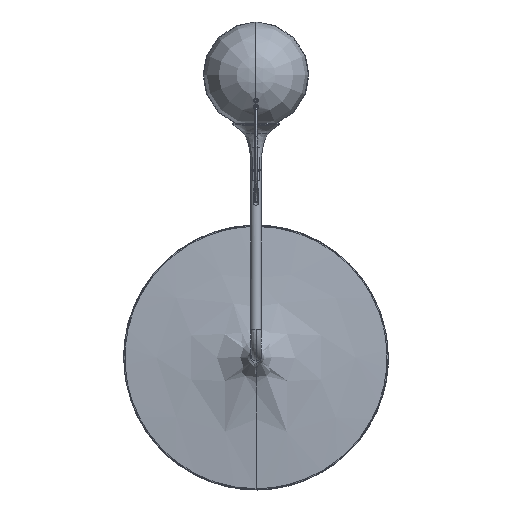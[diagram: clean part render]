
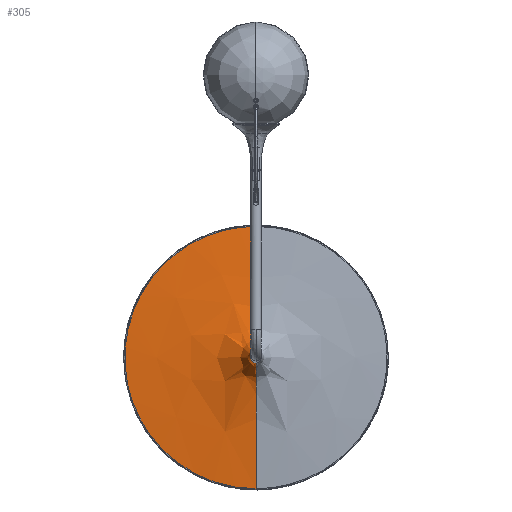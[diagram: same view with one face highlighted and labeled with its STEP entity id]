
A CAD part, top view. The second image highlights one B-rep face of the part: STEP entity #305.
In plain terms, the highlighted free-form (B-spline) face has degree [3, 5] with [4, 6] control points.
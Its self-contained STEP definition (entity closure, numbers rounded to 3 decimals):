
#305=ADVANCED_FACE('',(#413),#1905,.T.);
#413=FACE_OUTER_BOUND('',#521,.T.);
#521=EDGE_LOOP('',(#649,#650,#651,#652));
#649=ORIENTED_EDGE('',*,*,#1168,.T.);
#650=ORIENTED_EDGE('',*,*,#1174,.T.);
#651=ORIENTED_EDGE('',*,*,#1166,.T.);
#652=ORIENTED_EDGE('',*,*,#1175,.F.);
#1166=EDGE_CURVE('',#1708,#1709,#1608,.T.);
#1168=EDGE_CURVE('',#1710,#1707,#1609,.T.);
#1174=EDGE_CURVE('',#1707,#1708,#1436,.T.);
#1175=EDGE_CURVE('',#1710,#1709,#1615,.T.);
#1436=(
BOUNDED_CURVE()
B_SPLINE_CURVE(2,(#2556,#2557,#2558,#2559,#2560),.UNSPECIFIED.,.F.,.F.)
B_SPLINE_CURVE_WITH_KNOTS((3,2,3),(0.,7.854,15.708),
 .UNSPECIFIED.)
CURVE()
GEOMETRIC_REPRESENTATION_ITEM()
RATIONAL_B_SPLINE_CURVE((1.,0.707,1.,0.707,1.))
REPRESENTATION_ITEM('')
);
#1608=B_SPLINE_CURVE_WITH_KNOTS('',5,(#2499,#2500,#2501,#2502,#2503,#2504),
 .UNSPECIFIED.,.F.,.F.,(6,6),(-153.029,0.),.UNSPECIFIED.);
#1609=B_SPLINE_CURVE_WITH_KNOTS('',5,(#2510,#2511,#2512,#2513,#2514,#2515),
 .UNSPECIFIED.,.F.,.F.,(6,6),(-153.029,0.),.UNSPECIFIED.);
#1615=B_SPLINE_CURVE_WITH_KNOTS('',3,(#2561,#2562,#2563,#2564,#2565,#2566,
#2567,#2568,#2569,#2570,#2571,#2572,#2573),.UNSPECIFIED.,.F.,.F.,(4,1,1,
1,1,1,1,1,1,1,4),(-398.083,-369.648,-341.214,
-284.345,-227.476,-170.607,-113.738,
-85.303,-56.869,-28.434,0.),.UNSPECIFIED.);
#1707=VERTEX_POINT('',#2489);
#1708=VERTEX_POINT('',#2490);
#1709=VERTEX_POINT('',#2491);
#1710=VERTEX_POINT('',#2492);
#1905=(
BOUNDED_SURFACE()
B_SPLINE_SURFACE(3,5,((#2323,#2324,#2325,#2326,#2327,#2328),(#2329,#2330,
#2331,#2332,#2333,#2334),(#2335,#2336,#2337,#2338,#2339,#2340),(#2341,#2342,
#2343,#2344,#2345,#2346)),.UNSPECIFIED.,.F.,.F.,.F.)
B_SPLINE_SURFACE_WITH_KNOTS((4,4),(6,6),(0.,748.159),(0.,301.888),
 .UNSPECIFIED.)
GEOMETRIC_REPRESENTATION_ITEM()
RATIONAL_B_SPLINE_SURFACE(((1.,1.,1.,
1.,1.,1.),(0.333,
0.333,0.333,0.333,0.333,
0.333),(0.333,0.333,0.333,
0.333,0.333,0.333),(1.,
1.,1.,1.,1.,1.)))
REPRESENTATION_ITEM('')
SURFACE()
);
#2323=CARTESIAN_POINT('',(0.008,124.677,10.5));
#2324=CARTESIAN_POINT('',(0.006,94.758,12.723));
#2325=CARTESIAN_POINT('',(0.004,64.838,14.946));
#2326=CARTESIAN_POINT('',(0.002,34.919,17.17));
#2327=CARTESIAN_POINT('',(0.,5.,19.393));
#2328=CARTESIAN_POINT('',(0.,5.,53.5));
#2329=CARTESIAN_POINT('',(-249.378,124.693,10.5));
#2330=CARTESIAN_POINT('',(-189.534,94.77,12.723));
#2331=CARTESIAN_POINT('',(-129.69,64.847,14.946));
#2332=CARTESIAN_POINT('',(-69.845,34.924,17.17));
#2333=CARTESIAN_POINT('',(-10.001,5.001,19.393));
#2334=CARTESIAN_POINT('',(-10.001,5.001,53.5));
#2335=CARTESIAN_POINT('',(-249.378,-124.693,10.5));
#2336=CARTESIAN_POINT('',(-189.534,-94.77,12.723));
#2337=CARTESIAN_POINT('',(-129.69,-64.847,14.946));
#2338=CARTESIAN_POINT('',(-69.845,-34.924,17.17));
#2339=CARTESIAN_POINT('',(-10.001,-5.001,19.393));
#2340=CARTESIAN_POINT('',(-10.001,-5.001,53.5));
#2341=CARTESIAN_POINT('',(0.008,-124.677,10.5));
#2342=CARTESIAN_POINT('',(0.006,-94.758,12.723));
#2343=CARTESIAN_POINT('',(0.004,-64.838,14.946));
#2344=CARTESIAN_POINT('',(0.002,-34.919,17.17));
#2345=CARTESIAN_POINT('',(0.,-5.,19.393));
#2346=CARTESIAN_POINT('',(0.,-5.,53.5));
#2489=CARTESIAN_POINT('',(0.,-5.,53.5));
#2490=CARTESIAN_POINT('',(0.,5.,53.5));
#2491=CARTESIAN_POINT('',(0.,123.783,10.566));
#2492=CARTESIAN_POINT('',(0.,-123.783,10.566));
#2499=CARTESIAN_POINT('',(0.,5.,53.5));
#2500=CARTESIAN_POINT('',(0.,5.,19.597));
#2501=CARTESIAN_POINT('',(0.,34.563,17.197));
#2502=CARTESIAN_POINT('',(0.,64.302,14.986));
#2503=CARTESIAN_POINT('',(0.,94.043,12.776));
#2504=CARTESIAN_POINT('',(0.,123.783,10.566));
#2510=CARTESIAN_POINT('',(0.,-123.783,10.566));
#2511=CARTESIAN_POINT('',(0.,-94.043,12.776));
#2512=CARTESIAN_POINT('',(0.,-64.302,14.986));
#2513=CARTESIAN_POINT('',(0.,-34.563,17.197));
#2514=CARTESIAN_POINT('',(0.,-5.,19.597));
#2515=CARTESIAN_POINT('',(0.,-5.,53.5));
#2556=CARTESIAN_POINT('',(0.,-5.,53.5));
#2557=CARTESIAN_POINT('',(-5.,-5.,53.5));
#2558=CARTESIAN_POINT('',(-5.,0.,53.5));
#2559=CARTESIAN_POINT('',(-5.,5.,53.5));
#2560=CARTESIAN_POINT('',(0.,5.,53.5));
#2561=CARTESIAN_POINT('',(0.,-123.783,10.566));
#2562=CARTESIAN_POINT('',(-9.259,-123.783,10.566));
#2563=CARTESIAN_POINT('',(-27.771,-121.688,10.566));
#2564=CARTESIAN_POINT('',(-62.965,-109.411,10.566));
#2565=CARTESIAN_POINT('',(-100.089,-79.823,10.566));
#2566=CARTESIAN_POINT('',(-124.802,-28.488,10.566));
#2567=CARTESIAN_POINT('',(-124.812,28.488,10.566));
#2568=CARTESIAN_POINT('',(-104.202,71.254,10.566));
#2569=CARTESIAN_POINT('',(-77.822,97.587,10.566));
#2570=CARTESIAN_POINT('',(-54.164,112.468,10.566));
#2571=CARTESIAN_POINT('',(-27.775,121.695,10.566));
#2572=CARTESIAN_POINT('',(-9.259,123.783,10.566));
#2573=CARTESIAN_POINT('',(0.,123.783,10.566));
